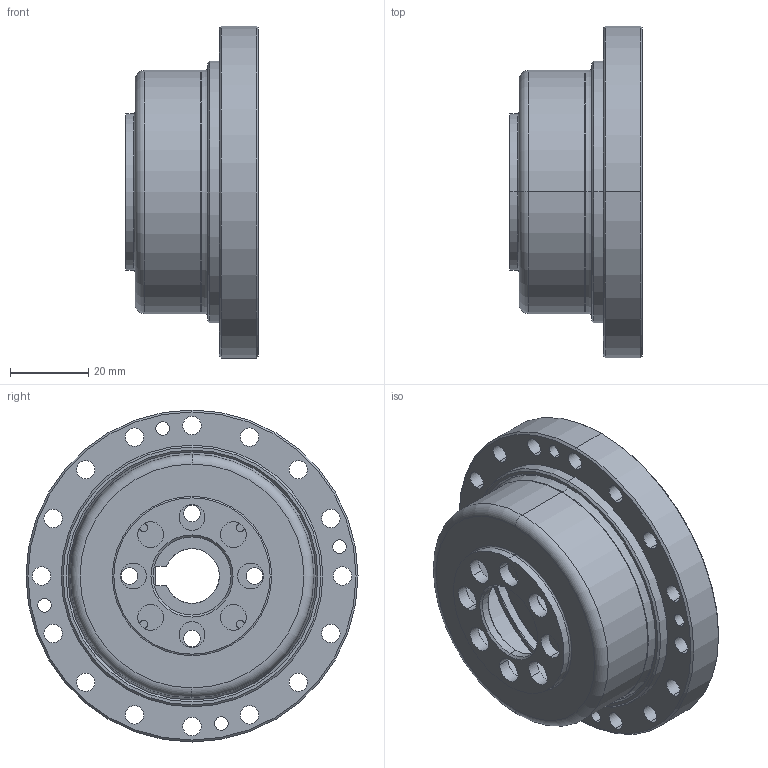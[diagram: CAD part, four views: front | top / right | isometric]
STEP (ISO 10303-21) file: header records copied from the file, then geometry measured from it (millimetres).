
FILE_DESCRIPTION (( 'STEP AP203' ), '1' );
FILE_NAME ('LCSG-25-XXX-P-I.STEP', '2017-06-22T05:58:00', ( 'Windows 蚚誧' ), ( 'Users' ), 'SwSTEP 2.0', 'SolidWorks 2013', '' );
FILE_SCHEMA (( 'CONFIG_CONTROL_DESIGN' ));
Length unit declared in the file: millimetre
Products named in the file (9): RZC-25悵厥殤; 柔性轴承RZC-25G; countersunk flat head cross recess screw_din_ISO 7046-1 - M2.5 x 4 - Z --- 4C; LCSG-25-XXX-P01-I; LHS-25-XXX-P02-I; LCSG-25-XXX-P-I; LCSG-25-XXX-P03-I; DB-25G-I; RZC-25G内外圈+钢球
Assembly tree (11 placements, depth 3):
  LCSG-25-XXX-P-I
    LCSG-25-XXX-P03-I
    DB-25G-I
    柔性轴承RZC-25G
      RZC-25G内外圈+钢球
      RZC-25悵厥殤
    countersunk flat head cross recess screw_din_ISO 7046-1 - M2.5 x 4 - Z --- 4C  x4
    LCSG-25-XXX-P01-I
    LHS-25-XXX-P02-I
Bounding box: 34 x 85 x 85 mm (x, y, z)
Volume: 53659.8 mm3; surface area: 53334.9 mm2
Topology: 34 solids, 34 shells, 562 faces, 1439 edges, 904 vertices
Faces by surface type: cylinder 221, plane 163, cone 92, sphere 46, torus 40
Entity records: 14247 total; most frequent: DIRECTION 2611, CARTESIAN_POINT 2271, ORIENTED_EDGE 2080, AXIS2_PLACEMENT_3D 1133, EDGE_CURVE 1040, CIRCLE 679, VERTEX_POINT 673, EDGE_LOOP 551
